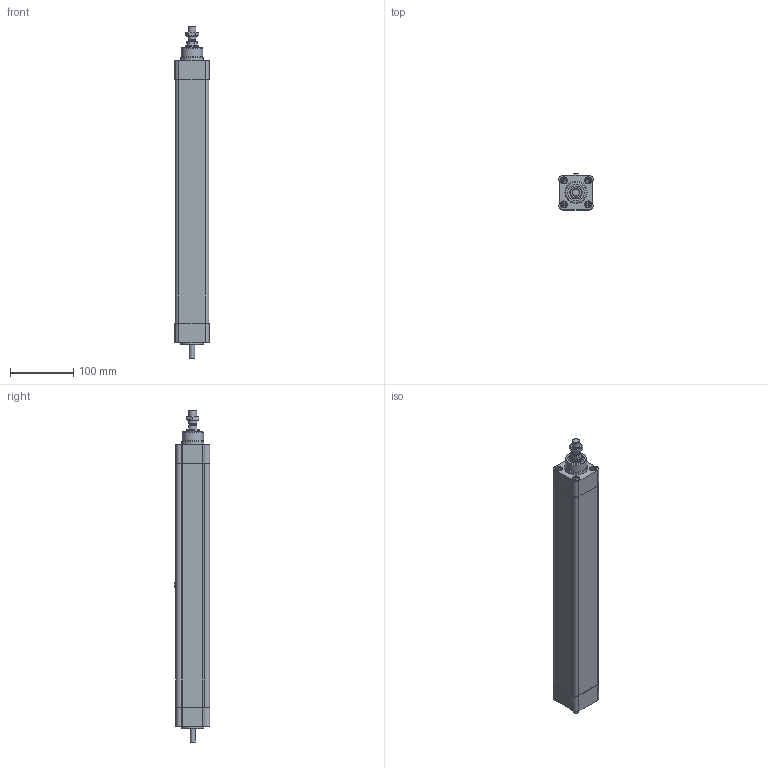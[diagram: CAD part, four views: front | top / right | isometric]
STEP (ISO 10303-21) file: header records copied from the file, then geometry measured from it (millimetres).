
FILE_DESCRIPTION(/* description */ ('STEP AP203'),/* implementation_level */ '2;1');
FILE_NAME(/* name */ 'PNCE 40 BS 1605 300 S(0)',/* time_stamp */ '2025-01-28T15:56:22+01:00',/* author */ ('License CC BY-ND 4.0'),/* organization */ ('CADENAS'),/* preprocessor_version */ 'ST-DEVELOPER v19.3',/* originating_system */ 'PARTsolutions',/* authorisation */ ' ');
FILE_SCHEMA (('CONFIG_CONTROL_DESIGN'));
Length unit declared in the file: millimetre
Products named in the file (6): PNCE 40 BS 1605 300 S(0); PNCE 40_drive cap; PNCE 40 300 S(0)_cylinder profil; PNCE 40_front cap; PNCE 40 300 S 0_piston rod; PNCE 40_nut
Assembly tree (5 placements, depth 2):
  PNCE 40 BS 1605 300 S(0)
    PNCE 40_drive cap
    PNCE 40 300 S(0)_cylinder profil
    PNCE 40_front cap
    PNCE 40 300 S 0_piston rod
    PNCE 40_nut
Bounding box: 53.97 x 56.5 x 523 mm (x, y, z)
Volume: 911851 mm3; surface area: 237471.7 mm2
Topology: 5 solids, 5 shells, 250 faces, 544 edges, 354 vertices
Faces by surface type: plane 136, cylinder 84, cone 30
Full cylindrical faces by diameter (mm): 4.917 x8, 5 x12, 5.3 x1, 6.5 x4, 8 x1, 8.566 x1, 10 x8, 10.4 x1, 10.647 x1, 11 x8, 12 x1, 19.9 x1, 20 x2, 22 x1, 26 x1, 34 x1, 35 x2, 39 x1, 40 x3
Entity records: 8005 total; most frequent: DIRECTION 1126, CARTESIAN_POINT 1121, ORIENTED_EDGE 884, AXIS2_PLACEMENT_3D 444, EDGE_CURVE 442, FACE_BOUND 409, EDGE_LOOP 400, VERTEX_POINT 347
